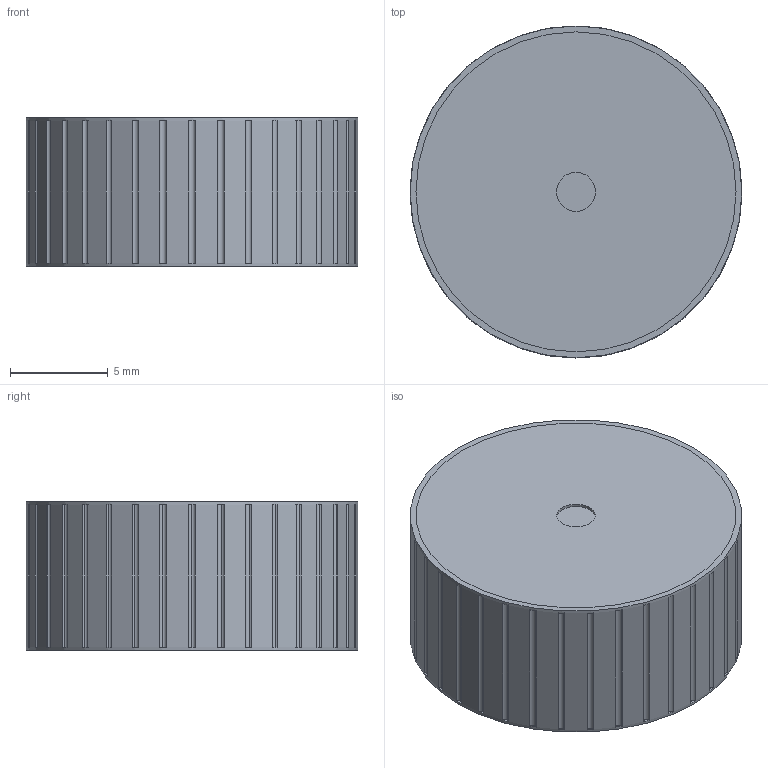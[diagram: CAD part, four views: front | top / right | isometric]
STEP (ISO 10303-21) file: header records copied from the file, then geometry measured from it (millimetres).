
FILE_DESCRIPTION(('Open CASCADE Model'),'2;1');
FILE_NAME('Open CASCADE Shape Model','2026-10-24T17:46:06',('Author'),( 'Open CASCADE'),'Open CASCADE STEP processor 8.0','Open CASCADE 8.0' ,'Unknown');
FILE_SCHEMA(('AUTOMOTIVE_DESIGN { 1 0 10303 214 1 1 1 1 }'));
Length unit declared in the file: millimetre
Products named in the file (21): Open CASCADE STEP translator 8.0 2; Open CASCADE STEP translator 8.0 2.1; Open CASCADE STEP translator 8.0 2.2; Open CASCADE STEP translator 8.0 2.3; Open CASCADE STEP translator 8.0 2.4; Open CASCADE STEP translator 8.0 2.5; Open CASCADE STEP translator 8.0 2.6; Open CASCADE STEP translator 8.0 2.7; Open CASCADE STEP translator 8.0 2.8; Open CASCADE STEP translator 8.0 2.9; Open CASCADE STEP translator 8.0 2.10; Open CASCADE STEP translator 8.0 2.11; Open CASCADE STEP translator 8.0 2.12; Open CASCADE STEP translator 8.0 2.13; Open CASCADE STEP translator 8.0 2.14; Open CASCADE STEP translator 8.0 2.15; Open CASCADE STEP translator 8.0 2.16; Open CASCADE STEP translator 8.0 2.17; Open CASCADE STEP translator 8.0 2.18; Open CASCADE STEP translator 8.0 2.19; Open CASCADE STEP translator 8.0 2.20
Assembly tree (20 placements, depth 2):
  Open CASCADE STEP translator 8.0 2
    Open CASCADE STEP translator 8.0 2.1
    Open CASCADE STEP translator 8.0 2.2
    Open CASCADE STEP translator 8.0 2.3
    Open CASCADE STEP translator 8.0 2.4
    Open CASCADE STEP translator 8.0 2.5
    Open CASCADE STEP translator 8.0 2.6
    Open CASCADE STEP translator 8.0 2.7
    Open CASCADE STEP translator 8.0 2.8
    Open CASCADE STEP translator 8.0 2.9
    Open CASCADE STEP translator 8.0 2.10
    Open CASCADE STEP translator 8.0 2.11
    Open CASCADE STEP translator 8.0 2.12
    Open CASCADE STEP translator 8.0 2.13
    Open CASCADE STEP translator 8.0 2.14
    Open CASCADE STEP translator 8.0 2.15
    Open CASCADE STEP translator 8.0 2.16
    Open CASCADE STEP translator 8.0 2.17
    Open CASCADE STEP translator 8.0 2.18
    Open CASCADE STEP translator 8.0 2.19
    Open CASCADE STEP translator 8.0 2.20
Bounding box: 17 x 17 x 7.6 mm (x, y, z)
Volume: 670.6 mm3; surface area: 2788.8 mm2
Topology: 20 solids, 20 shells, 242 faces, 482 edges, 321 vertices
Faces by surface type: plane 146, cylinder 96
Full cylindrical faces by diameter (mm): 2 x4, 2.6 x3, 2.8 x1, 4 x1, 6.4 x1, 14 x1, 15.36 x1, 15.4 x1, 16.4 x3, 17 x1
Entity records: 12628 total; most frequent: CARTESIAN_POINT 2399, DIRECTION 1868, ORIENTED_EDGE 964, PCURVE 964, DEFINITIONAL_REPRESENTATION 964, LINE 548, VECTOR 548, CIRCLE 529
